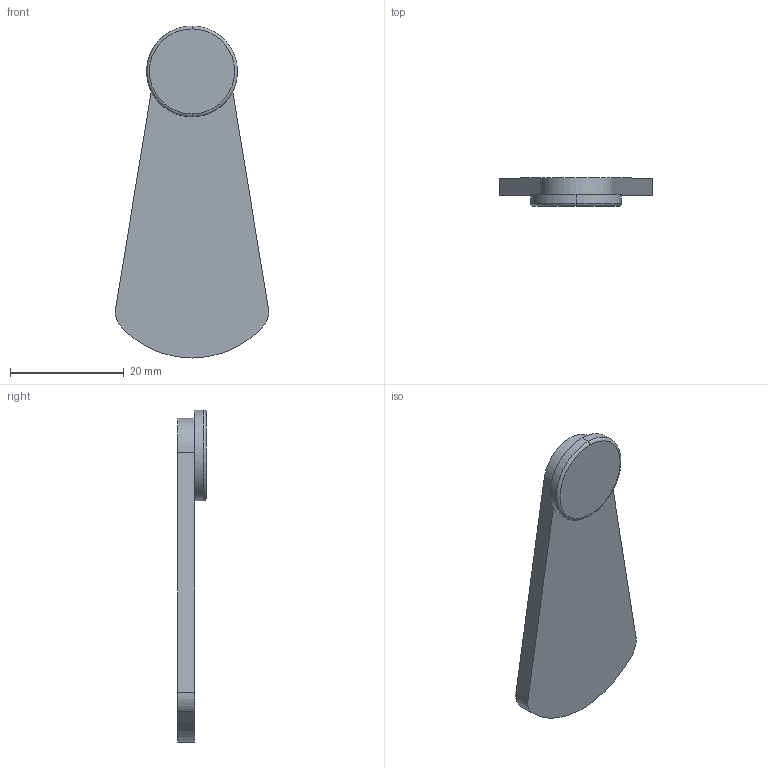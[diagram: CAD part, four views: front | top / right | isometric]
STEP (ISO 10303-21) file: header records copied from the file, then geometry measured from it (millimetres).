
FILE_DESCRIPTION( ( '' ), '1' );
FILE_NAME( 'C:/Documents and Settings/Nikhil/Desktop/Nik/Done/9113648.stp', '2013-10-23T11:56:00', ( '' ), ( '' ), ' ', ' ', ' ' );
FILE_SCHEMA( ( 'automotive_design' ) );
Length unit declared in the file: millimetre
Products named in the file (1): 1
Bounding box: 27 x 5 x 58.48 mm (x, y, z)
Volume: 3593.5 mm3; surface area: 2805.6 mm2
Topology: 1 solids, 1 shells, 17 faces, 38 edges, 24 vertices
Faces by surface type: cylinder 8, plane 7, torus 2
Entity records: 952 total; most frequent: DIRECTION 96, STYLED_ITEM 80, PRESENTATION_STYLE_ASSIGNMENT 80, CARTESIAN_POINT 80, COLOUR_RGB 80, ORIENTED_EDGE 76, AXIS2_PLACEMENT_3D 40, EDGE_CURVE 38
